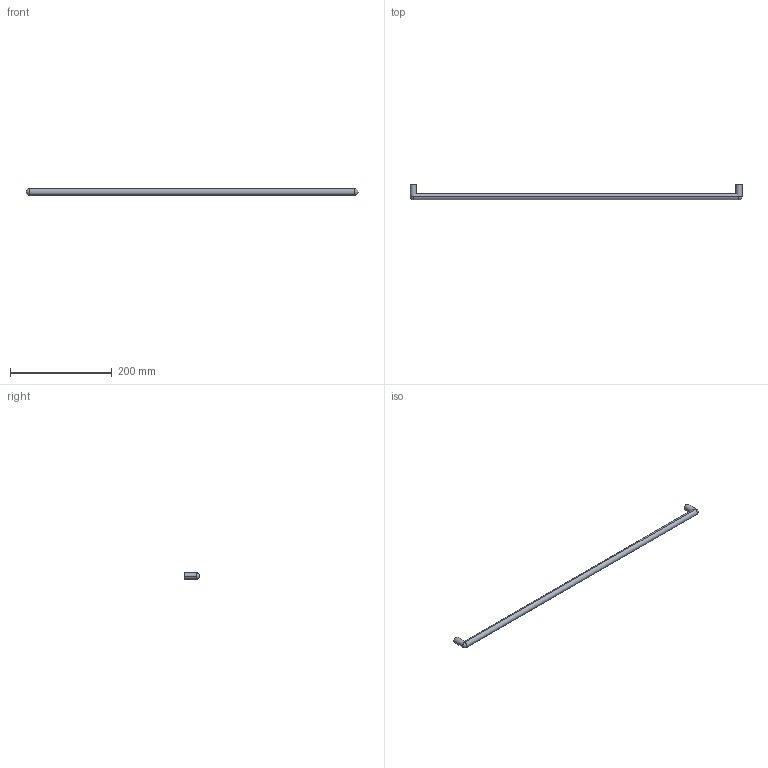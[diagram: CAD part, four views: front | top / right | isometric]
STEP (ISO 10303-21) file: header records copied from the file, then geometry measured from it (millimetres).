
FILE_DESCRIPTION( ( '' ), '1' );
FILE_NAME( 'D:/1.AUTOCAD EXPORT/Group 10/sheet_10_1/ 9071010.stp', '2013-10-17T08:29:05', ( '' ), ( '' ), ' ', ' ', ' ' );
FILE_SCHEMA( ( 'automotive_design' ) );
Length unit declared in the file: millimetre
Products named in the file (1): 1
Bounding box: 652 x 30 x 12 mm (x, y, z)
Volume: 77294.7 mm3; surface area: 26415.5 mm2
Topology: 1 solids, 1 shells, 16 faces, 36 edges, 20 vertices
Faces by surface type: cylinder 10, plane 4, sphere 2
Entity records: 838 total; most frequent: DIRECTION 88, STYLED_ITEM 69, PRESENTATION_STYLE_ASSIGNMENT 69, CARTESIAN_POINT 69, COLOUR_RGB 69, ORIENTED_EDGE 64, AXIS2_PLACEMENT_3D 39, EDGE_CURVE 32
